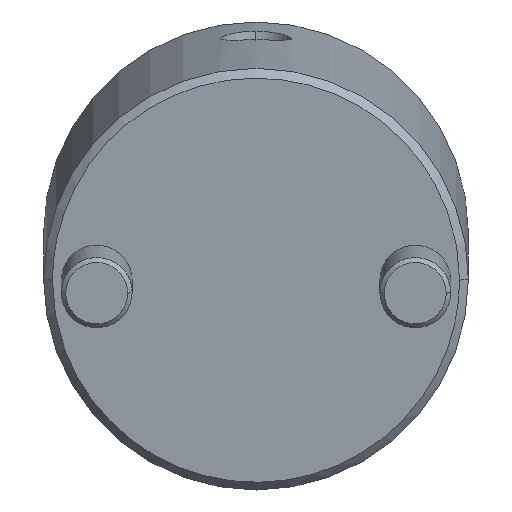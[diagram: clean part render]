
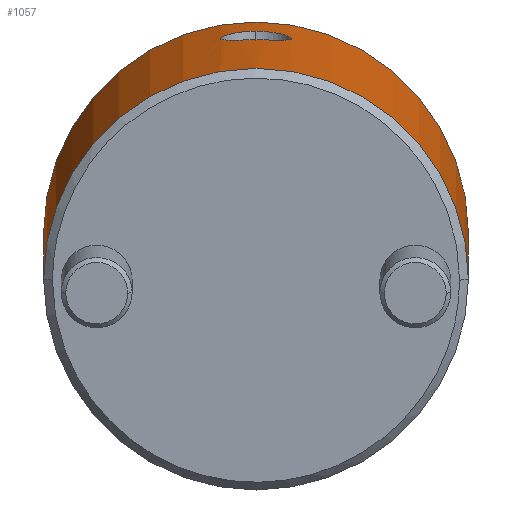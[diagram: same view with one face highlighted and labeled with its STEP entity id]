
A CAD part, front view. The second image highlights one B-rep face of the part: STEP entity #1057.
In plain terms, the highlighted cylindrical face has radius 24 mm (diameter 48 mm), a partial arc.
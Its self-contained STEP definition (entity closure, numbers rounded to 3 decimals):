
#802=CARTESIAN_POINT('Vertex',(0.,24.,1.)) ;
#805=CARTESIAN_POINT('Axis2P3D Location',(0.,0.,1.)) ;
#809=CARTESIAN_POINT('Vertex',(0.,-24.,1.)) ;
#961=CARTESIAN_POINT('Axis2P3D Location',(0.,0.,-2.25)) ;
#966=CARTESIAN_POINT('Line Origine',(0.,24.,-2.25)) ;
#970=CARTESIAN_POINT('Vertex',(0.,24.,44.)) ;
#973=CARTESIAN_POINT('Axis2P3D Location',(0.,0.,44.)) ;
#977=CARTESIAN_POINT('Vertex',(0.,-24.,44.)) ;
#980=CARTESIAN_POINT('Line Origine',(0.,-24.,-2.25)) ;
#992=CARTESIAN_POINT('Control Point',(24.,0.,35.463)) ;
#993=CARTESIAN_POINT('Control Point',(24.,0.584,35.463)) ;
#994=CARTESIAN_POINT('Control Point',(23.982,1.157,35.355)) ;
#995=CARTESIAN_POINT('Control Point',(23.947,1.713,35.137)) ;
#996=CARTESIAN_POINT('Control Point',(23.887,2.381,34.725)) ;
#997=CARTESIAN_POINT('Control Point',(23.821,2.93,34.165)) ;
#998=CARTESIAN_POINT('Control Point',(23.804,3.062,34.013)) ;
#999=CARTESIAN_POINT('Control Point',(23.756,3.424,33.542)) ;
#1000=CARTESIAN_POINT('Control Point',(23.714,3.697,33.01)) ;
#1001=CARTESIAN_POINT('Control Point',(23.692,3.834,32.642)) ;
#1002=CARTESIAN_POINT('Control Point',(23.669,3.973,32.066)) ;
#1003=CARTESIAN_POINT('Control Point',(23.663,4.006,31.473)) ;
#1004=CARTESIAN_POINT('Control Point',(23.663,4.005,31.28)) ;
#1005=CARTESIAN_POINT('Control Point',(23.668,3.98,30.889)) ;
#1006=CARTESIAN_POINT('Control Point',(23.68,3.909,30.506)) ;
#1007=CARTESIAN_POINT('Control Point',(23.687,3.862,30.318)) ;
#1008=CARTESIAN_POINT('Control Point',(23.716,3.686,29.76)) ;
#1009=CARTESIAN_POINT('Control Point',(23.758,3.411,29.243)) ;
#1010=CARTESIAN_POINT('Control Point',(23.79,3.185,28.922)) ;
#1011=CARTESIAN_POINT('Control Point',(23.848,2.725,28.413)) ;
#1012=CARTESIAN_POINT('Control Point',(23.904,2.168,28.015)) ;
#1013=CARTESIAN_POINT('Control Point',(23.926,1.913,27.866)) ;
#1014=CARTESIAN_POINT('Control Point',(23.963,1.393,27.623)) ;
#1015=CARTESIAN_POINT('Control Point',(23.988,0.837,27.476)) ;
#1016=CARTESIAN_POINT('Control Point',(23.996,0.559,27.427)) ;
#1017=CARTESIAN_POINT('Control Point',(24.,0.28,27.403)) ;
#1018=CARTESIAN_POINT('Control Point',(24.,0.,27.403)) ;
#1019=CARTESIAN_POINT('Vertex',(24.,0.,35.463)) ;
#1021=CARTESIAN_POINT('Vertex',(24.,0.,27.403)) ;
#1025=CARTESIAN_POINT('Control Point',(24.,0.,27.403)) ;
#1026=CARTESIAN_POINT('Control Point',(24.,-0.392,27.403)) ;
#1027=CARTESIAN_POINT('Control Point',(23.992,-0.781,27.45)) ;
#1028=CARTESIAN_POINT('Control Point',(23.976,-1.167,27.545)) ;
#1029=CARTESIAN_POINT('Control Point',(23.914,-2.177,27.93)) ;
#1030=CARTESIAN_POINT('Control Point',(23.818,-3.018,28.63)) ;
#1031=CARTESIAN_POINT('Control Point',(23.755,-3.444,29.186)) ;
#1032=CARTESIAN_POINT('Control Point',(23.68,-3.909,30.167)) ;
#1033=CARTESIAN_POINT('Control Point',(23.66,-4.026,31.251)) ;
#1034=CARTESIAN_POINT('Control Point',(23.661,-4.02,31.646)) ;
#1035=CARTESIAN_POINT('Control Point',(23.675,-3.941,32.234)) ;
#1036=CARTESIAN_POINT('Control Point',(23.704,-3.76,32.792)) ;
#1037=CARTESIAN_POINT('Control Point',(23.715,-3.688,32.977)) ;
#1038=CARTESIAN_POINT('Control Point',(23.741,-3.522,33.336)) ;
#1039=CARTESIAN_POINT('Control Point',(23.77,-3.314,33.674)) ;
#1040=CARTESIAN_POINT('Control Point',(23.786,-3.201,33.835)) ;
#1041=CARTESIAN_POINT('Control Point',(23.818,-2.954,34.146)) ;
#1042=CARTESIAN_POINT('Control Point',(23.851,-2.673,34.423)) ;
#1043=CARTESIAN_POINT('Control Point',(23.868,-2.525,34.552)) ;
#1044=CARTESIAN_POINT('Control Point',(23.907,-2.138,34.85)) ;
#1045=CARTESIAN_POINT('Control Point',(23.941,-1.711,35.086)) ;
#1046=CARTESIAN_POINT('Control Point',(23.959,-1.444,35.203)) ;
#1047=CARTESIAN_POINT('Control Point',(23.982,-0.997,35.352)) ;
#1048=CARTESIAN_POINT('Control Point',(23.995,-0.535,35.432)) ;
#1049=CARTESIAN_POINT('Control Point',(23.998,-0.357,35.453)) ;
#1050=CARTESIAN_POINT('Control Point',(24.,-0.179,35.463)) ;
#1051=CARTESIAN_POINT('Control Point',(24.,0.,35.463)) ;
#806=DIRECTION('Axis2P3D Direction',(0.,0.,1.)) ;
#962=DIRECTION('Axis2P3D Direction',(0.,-0.,1.)) ;
#963=DIRECTION('Axis2P3D XDirection',(0.,-1.,0.)) ;
#967=DIRECTION('Vector Direction',(0.,0.,1.)) ;
#974=DIRECTION('Axis2P3D Direction',(0.,-0.,1.)) ;
#981=DIRECTION('Vector Direction',(0.,0.,1.)) ;
#807=AXIS2_PLACEMENT_3D('Circle Axis2P3D',#805,#806,$) ;
#964=AXIS2_PLACEMENT_3D('Cylinder Axis2P3D',#961,#962,#963) ;
#975=AXIS2_PLACEMENT_3D('Circle Axis2P3D',#973,#974,$) ;
#986=ORIENTED_EDGE('',*,*,#972,.F.) ;
#987=ORIENTED_EDGE('',*,*,#979,.T.) ;
#988=ORIENTED_EDGE('',*,*,#984,.T.) ;
#989=ORIENTED_EDGE('',*,*,#811,.F.) ;
#1054=ORIENTED_EDGE('',*,*,#1023,.T.) ;
#1055=ORIENTED_EDGE('',*,*,#1052,.T.) ;
#1056=FACE_BOUND('',#1053,.T.) ;
#968=VECTOR('Line Direction',#967,1.) ;
#982=VECTOR('Line Direction',#981,1.) ;
#1057=ADVANCED_FACE('MANIFOLD_SOLID_BREP #1138',(#990,#1056),#965,.T.) ;
#991=B_SPLINE_CURVE_WITH_KNOTS('',5,(#992,#993,#994,#995,#996,#997,#998,#999,#1000,#1001,#1002,#1003,#1004,#1005,#1006,#1007,#1008,#1009,#1010,#1011,#1012,#1013,#1014,#1015,#1016,#1017,#1018),.UNSPECIFIED.,.F.,.U.,(6,3,3,3,3,3,3,3,6),(0.,4.14,5.526,8.298,9.663,11.034,13.808,15.892,17.878),.UNSPECIFIED.) ;
#1024=B_SPLINE_CURVE_WITH_KNOTS('',5,(#1025,#1026,#1027,#1028,#1029,#1030,#1031,#1032,#1033,#1034,#1035,#1036,#1037,#1038,#1039,#1040,#1041,#1042,#1043,#1044,#1045,#1046,#1047,#1048,#1049,#1050,#1051),.UNSPECIFIED.,.F.,.U.,(6,3,3,3,3,3,3,3,6),(0.,2.779,7.629,10.375,11.764,13.152,14.543,16.62,17.888),.UNSPECIFIED.) ;
#808=CIRCLE('generated circle',#807,24.) ;
#976=CIRCLE('generated circle',#975,24.) ;
#965=CYLINDRICAL_SURFACE('generated cylinder',#964,24.) ;
#811=EDGE_CURVE('',#803,#810,#808,.F.) ;
#972=EDGE_CURVE('',#971,#803,#969,.F.) ;
#979=EDGE_CURVE('',#971,#978,#976,.F.) ;
#984=EDGE_CURVE('',#978,#810,#983,.F.) ;
#1023=EDGE_CURVE('',#1020,#1022,#991,.T.) ;
#1052=EDGE_CURVE('',#1022,#1020,#1024,.T.) ;
#985=EDGE_LOOP('',(#986,#987,#988,#989)) ;
#1053=EDGE_LOOP('',(#1054,#1055)) ;
#990=FACE_OUTER_BOUND('',#985,.T.) ;
#969=LINE('Line',#966,#968) ;
#983=LINE('Line',#980,#982) ;
#803=VERTEX_POINT('',#802) ;
#810=VERTEX_POINT('',#809) ;
#971=VERTEX_POINT('',#970) ;
#978=VERTEX_POINT('',#977) ;
#1020=VERTEX_POINT('',#1019) ;
#1022=VERTEX_POINT('',#1021) ;
